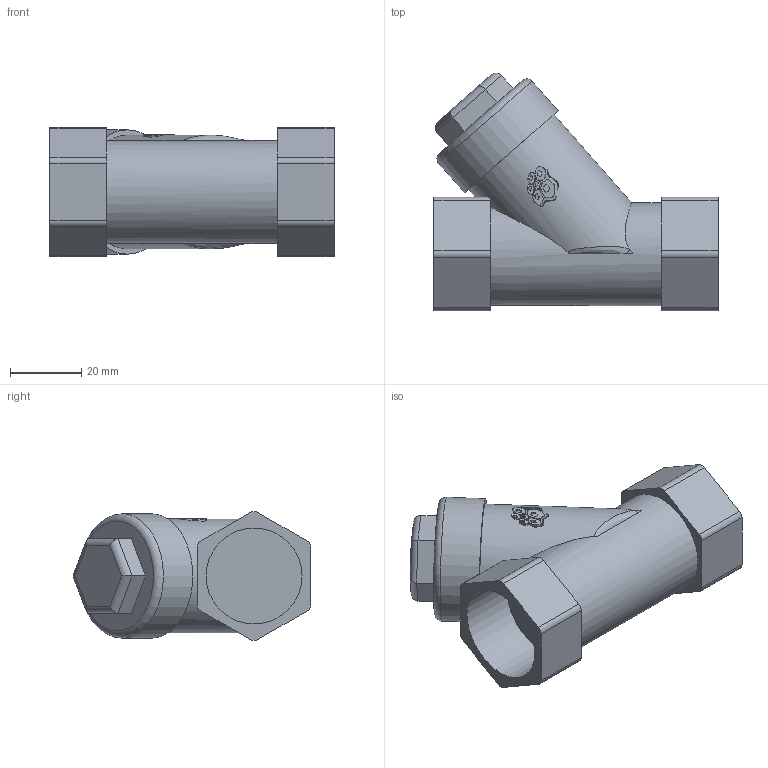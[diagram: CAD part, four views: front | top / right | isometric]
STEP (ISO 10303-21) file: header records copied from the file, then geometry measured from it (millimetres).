
FILE_DESCRIPTION(('STEP AP203'), '1');
FILE_NAME('3D_6460-020-40', '', ('UNSPECIFIED'), ('UNSPECIFIED'), 'C3D Converter', 'C3D Toolkit', '');
FILE_SCHEMA(('CONFIG_CONTROL_DESIGN'));
Length unit declared in the file: millimetre
Bounding box: 80 x 66.93 x 36.33 mm (x, y, z)
Volume: 75065.1 mm3; surface area: 17040.4 mm2
Topology: 1 solids, 1 shells, 883 faces, 2589 edges, 1725 vertices
Faces by surface type: plane 848, cylinder 30, bspline 4, torus 1
Full cylindrical faces by diameter (mm): 27 x2, 29 x1, 32 x1, 35 x1
Entity records: 37270 total; most frequent: CARTESIAN_POINT 9087, ORIENTED_EDGE 5160, DIRECTION 3559, EDGE_CURVE 2580, VERTEX_POINT 1724, LINE 1719, VECTOR 1719, AXIS2_PLACEMENT_3D 920
